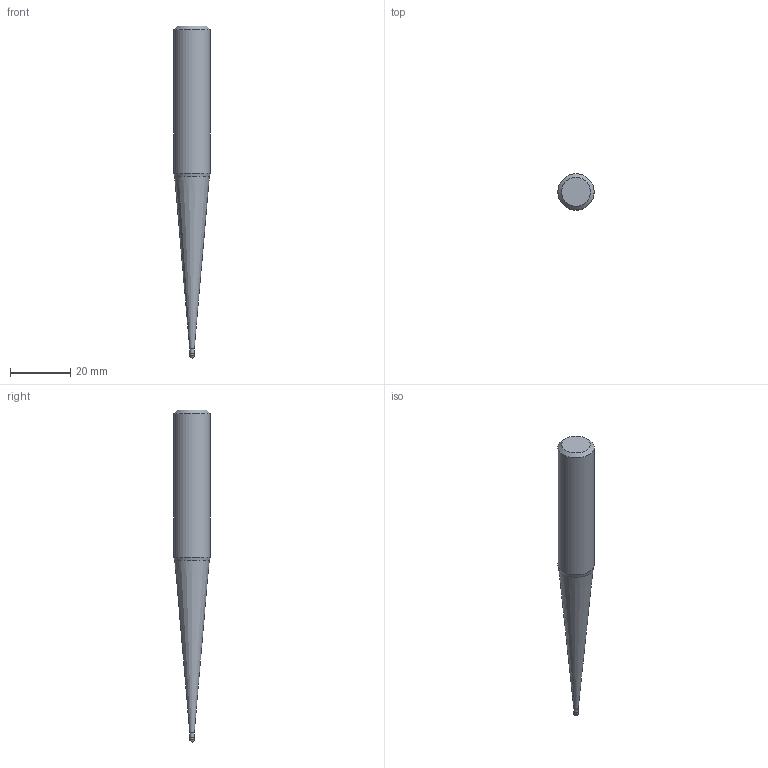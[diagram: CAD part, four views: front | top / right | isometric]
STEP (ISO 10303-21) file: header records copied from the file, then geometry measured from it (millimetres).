
FILE_DESCRIPTION((''),'2;1');
FILE_NAME('C:\Users\nsx150\AppData\Local\Temp\Mastercam 2021\SNAKH10GOD\TEMP.step','2021-10-21T13:33:05',(''),(''),'STEP Write','Mastercam 2021 ... CNC Software, Inc.','');
FILE_SCHEMA(('AUTOMOTIVE_DESIGN'));
Length unit declared in the file: millimetre
Products named in the file (1): None
Bounding box: 12 x 12 x 110 mm (x, y, z)
Volume: 7878.5 mm3; surface area: 3151.6 mm2
Topology: 2 solids, 2 shells, 10 faces, 16 edges, 9 vertices
Faces by surface type: plane 3, cylinder 3, cone 3, sphere 1
Full cylindrical faces by diameter (mm): 1.485 x1, 1.5 x1, 12 x1
Entity records: 232 total; most frequent: DIRECTION 40, CARTESIAN_POINT 28, AXIS2_PLACEMENT_3D 20, ORIENTED_EDGE 16, EDGE_LOOP 16, STYLED_ITEM 13, ADVANCED_FACE 10, FACE_BOUND 9
